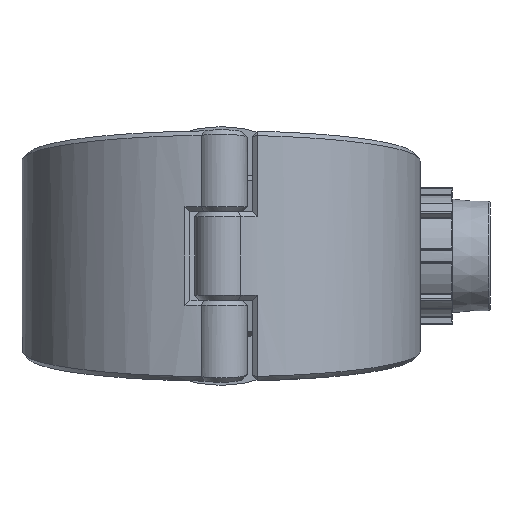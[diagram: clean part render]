
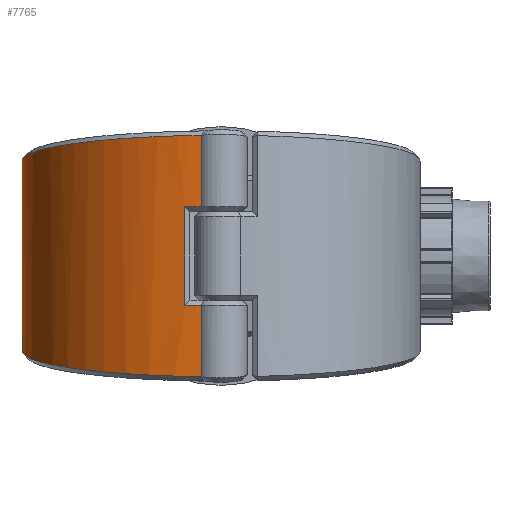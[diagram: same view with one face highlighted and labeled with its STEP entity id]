
A CAD part, front view. The second image highlights one B-rep face of the part: STEP entity #7765.
In plain terms, the highlighted cylindrical face has radius 78.5 mm (diameter 157 mm), a partial arc.
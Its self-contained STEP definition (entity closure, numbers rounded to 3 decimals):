
#263=CYLINDRICAL_SURFACE('',#8320,78.5);
#584=FACE_OUTER_BOUND('',#1104,.T.);
#1104=EDGE_LOOP('',(#5280,#5281,#5282,#5283,#5284,#5285,#5286,#5287,#5288,
#5289,#5290,#5291));
#1644=B_SPLINE_CURVE_WITH_KNOTS('',3,(#11843,#11844,#11845,#11846),
 .UNSPECIFIED.,.F.,.F.,(4,4),(-0.002,0.),.UNSPECIFIED.);
#1645=B_SPLINE_CURVE_WITH_KNOTS('',3,(#11848,#11849,#11850,#11851),
 .UNSPECIFIED.,.F.,.F.,(4,4),(-3.042,-3.042),
 .UNSPECIFIED.);
#1646=B_SPLINE_CURVE_WITH_KNOTS('',3,(#11853,#11854,#11855,#11856,#11857,
#11858,#11859,#11860,#11861,#11862),.UNSPECIFIED.,.F.,.F.,(4,1,1,1,1,1,
1,4),(0.317,0.63,1.034,1.438,
1.842,2.246,2.65,3.042),
 .UNSPECIFIED.);
#1647=B_SPLINE_CURVE_WITH_KNOTS('',3,(#11866,#11867,#11868,#11869,#11870,
#11871,#11872,#11873,#11874,#11875),.UNSPECIFIED.,.F.,.F.,(4,1,1,1,1,1,
1,4),(-3.042,-2.65,-2.246,-1.842,
-1.438,-1.034,-0.63,-0.317),
 .UNSPECIFIED.);
#1648=B_SPLINE_CURVE_WITH_KNOTS('',3,(#11877,#11878,#11879,#11880),
 .UNSPECIFIED.,.F.,.F.,(4,4),(3.042,3.042),
 .UNSPECIFIED.);
#1649=B_SPLINE_CURVE_WITH_KNOTS('',3,(#11882,#11883,#11884,#11885),
 .UNSPECIFIED.,.F.,.F.,(4,4),(-0.391,-0.389),
 .UNSPECIFIED.);
#1921=LINE('',#11777,#2291);
#1927=LINE('',#11841,#2297);
#1928=LINE('',#11864,#2298);
#1929=LINE('',#11886,#2299);
#2291=VECTOR('',#9336,10.);
#2297=VECTOR('',#9382,10.);
#2298=VECTOR('',#9383,10.);
#2299=VECTOR('',#9384,10.);
#2666=CIRCLE('',#8310,78.5);
#2669=CIRCLE('',#8315,78.5);
#3229=VERTEX_POINT('',#11771);
#3230=VERTEX_POINT('',#11776);
#3236=VERTEX_POINT('',#11797);
#3239=VERTEX_POINT('',#11818);
#3243=VERTEX_POINT('',#11840);
#3244=VERTEX_POINT('',#11842);
#3245=VERTEX_POINT('',#11847);
#3246=VERTEX_POINT('',#11852);
#3247=VERTEX_POINT('',#11863);
#3248=VERTEX_POINT('',#11865);
#3249=VERTEX_POINT('',#11876);
#3250=VERTEX_POINT('',#11881);
#3984=EDGE_CURVE('',#3229,#3230,#1921,.T.);
#3997=EDGE_CURVE('',#3236,#3229,#2666,.T.);
#4002=EDGE_CURVE('',#3230,#3239,#2669,.T.);
#4008=EDGE_CURVE('',#3243,#3236,#1927,.T.);
#4009=EDGE_CURVE('',#3244,#3243,#1644,.T.);
#4010=EDGE_CURVE('',#3244,#3245,#1645,.T.);
#4011=EDGE_CURVE('',#3246,#3245,#1646,.T.);
#4012=EDGE_CURVE('',#3247,#3246,#1928,.T.);
#4013=EDGE_CURVE('',#3248,#3247,#1647,.T.);
#4014=EDGE_CURVE('',#3248,#3249,#1648,.T.);
#4015=EDGE_CURVE('',#3250,#3249,#1649,.T.);
#4016=EDGE_CURVE('',#3239,#3250,#1929,.T.);
#5280=ORIENTED_EDGE('',*,*,#4002,.F.);
#5281=ORIENTED_EDGE('',*,*,#3984,.F.);
#5282=ORIENTED_EDGE('',*,*,#3997,.F.);
#5283=ORIENTED_EDGE('',*,*,#4008,.F.);
#5284=ORIENTED_EDGE('',*,*,#4009,.F.);
#5285=ORIENTED_EDGE('',*,*,#4010,.T.);
#5286=ORIENTED_EDGE('',*,*,#4011,.F.);
#5287=ORIENTED_EDGE('',*,*,#4012,.F.);
#5288=ORIENTED_EDGE('',*,*,#4013,.F.);
#5289=ORIENTED_EDGE('',*,*,#4014,.T.);
#5290=ORIENTED_EDGE('',*,*,#4015,.F.);
#5291=ORIENTED_EDGE('',*,*,#4016,.F.);
#7765=ADVANCED_FACE('',(#584),#263,.T.);
#8310=AXIS2_PLACEMENT_3D('',#11813,#9358,#9359);
#8315=AXIS2_PLACEMENT_3D('',#11827,#9368,#9369);
#8320=AXIS2_PLACEMENT_3D('',#11839,#9380,#9381);
#9336=DIRECTION('',(0.,0.,-1.));
#9358=DIRECTION('center_axis',(0.,0.,-1.));
#9359=DIRECTION('ref_axis',(0.312,-0.95,0.));
#9368=DIRECTION('center_axis',(0.,0.,1.));
#9369=DIRECTION('ref_axis',(0.312,-0.95,0.));
#9380=DIRECTION('center_axis',(0.,0.,1.));
#9381=DIRECTION('ref_axis',(-0.312,0.95,0.));
#9382=DIRECTION('',(0.,0.,-1.));
#9383=DIRECTION('',(0.,0.,1.));
#9384=DIRECTION('',(0.,0.,-1.));
#11771=CARTESIAN_POINT('',(-14.221,-77.201,19.5));
#11776=CARTESIAN_POINT('',(-14.221,-77.201,-19.5));
#11777=CARTESIAN_POINT('',(-14.221,-77.201,0.));
#11797=CARTESIAN_POINT('',(-7.767,-78.115,19.5));
#11813=CARTESIAN_POINT('Origin',(0.,0.,19.5));
#11818=CARTESIAN_POINT('',(-7.767,-78.115,-19.5));
#11827=CARTESIAN_POINT('Origin',(0.,0.,-19.5));
#11839=CARTESIAN_POINT('Origin',(0.,0.,0.));
#11840=CARTESIAN_POINT('',(-7.767,-78.115,47.539));
#11841=CARTESIAN_POINT('',(-7.767,-78.115,0.));
#11842=CARTESIAN_POINT('',(-7.754,-78.116,47.549));
#11843=CARTESIAN_POINT('Ctrl Pts',(-7.754,-78.116,
47.549));
#11844=CARTESIAN_POINT('Ctrl Pts',(-7.758,-78.115,
47.545));
#11845=CARTESIAN_POINT('Ctrl Pts',(-7.763,-78.115,
47.542));
#11846=CARTESIAN_POINT('Ctrl Pts',(-7.767,-78.114,
47.539));
#11847=CARTESIAN_POINT('',(-7.767,-78.115,47.549));
#11848=CARTESIAN_POINT('Ctrl Pts',(-7.754,-78.116,
47.549));
#11849=CARTESIAN_POINT('Ctrl Pts',(-7.759,-78.116,47.549));
#11850=CARTESIAN_POINT('Ctrl Pts',(-7.763,-78.115,
47.549));
#11851=CARTESIAN_POINT('Ctrl Pts',(-7.767,-78.115,47.549));
#11852=CARTESIAN_POINT('',(-24.512,74.575,27.998));
#11853=CARTESIAN_POINT('Ctrl Pts',(-24.511,74.572,27.999));
#11854=CARTESIAN_POINT('Ctrl Pts',(-32.319,72.002,28.327));
#11855=CARTESIAN_POINT('Ctrl Pts',(-49.273,63.309,29.436));
#11856=CARTESIAN_POINT('Ctrl Pts',(-69.438,41.08,32.276));
#11857=CARTESIAN_POINT('Ctrl Pts',(-79.986,10.445,36.194));
#11858=CARTESIAN_POINT('Ctrl Pts',(-77.658,-21.829,
40.326));
#11859=CARTESIAN_POINT('Ctrl Pts',(-62.848,-50.55,
44.009));
#11860=CARTESIAN_POINT('Ctrl Pts',(-38.227,-70.955,
46.629));
#11861=CARTESIAN_POINT('Ctrl Pts',(-17.958,-77.1,47.418));
#11862=CARTESIAN_POINT('Ctrl Pts',(-7.767,-78.115,
47.549));
#11863=CARTESIAN_POINT('',(-24.512,74.575,-27.998));
#11864=CARTESIAN_POINT('',(-24.512,74.575,0.));
#11865=CARTESIAN_POINT('',(-7.767,-78.115,-47.549));
#11866=CARTESIAN_POINT('Ctrl Pts',(-7.767,-78.115,
-47.548));
#11867=CARTESIAN_POINT('Ctrl Pts',(-17.958,-77.1,
-47.418));
#11868=CARTESIAN_POINT('Ctrl Pts',(-38.223,-70.951,
-46.628));
#11869=CARTESIAN_POINT('Ctrl Pts',(-62.855,-50.555,
-44.01));
#11870=CARTESIAN_POINT('Ctrl Pts',(-77.65,-21.826,
-40.326));
#11871=CARTESIAN_POINT('Ctrl Pts',(-79.995,10.446,-36.193));
#11872=CARTESIAN_POINT('Ctrl Pts',(-69.43,41.077,-32.276));
#11873=CARTESIAN_POINT('Ctrl Pts',(-49.277,63.311,-29.436));
#11874=CARTESIAN_POINT('Ctrl Pts',(-32.32,72.002,-28.327));
#11875=CARTESIAN_POINT('Ctrl Pts',(-24.511,74.573,-27.999));
#11876=CARTESIAN_POINT('',(-7.754,-78.116,-47.549));
#11877=CARTESIAN_POINT('Ctrl Pts',(-7.767,-78.115,
-47.548));
#11878=CARTESIAN_POINT('Ctrl Pts',(-7.763,-78.115,
-47.549));
#11879=CARTESIAN_POINT('Ctrl Pts',(-7.759,-78.116,
-47.549));
#11880=CARTESIAN_POINT('Ctrl Pts',(-7.754,-78.116,
-47.549));
#11881=CARTESIAN_POINT('',(-7.767,-78.115,-47.539));
#11882=CARTESIAN_POINT('Ctrl Pts',(-7.767,-78.114,
-47.539));
#11883=CARTESIAN_POINT('Ctrl Pts',(-7.763,-78.115,
-47.542));
#11884=CARTESIAN_POINT('Ctrl Pts',(-7.758,-78.115,
-47.545));
#11885=CARTESIAN_POINT('Ctrl Pts',(-7.754,-78.116,-47.549));
#11886=CARTESIAN_POINT('',(-7.767,-78.115,0.));
